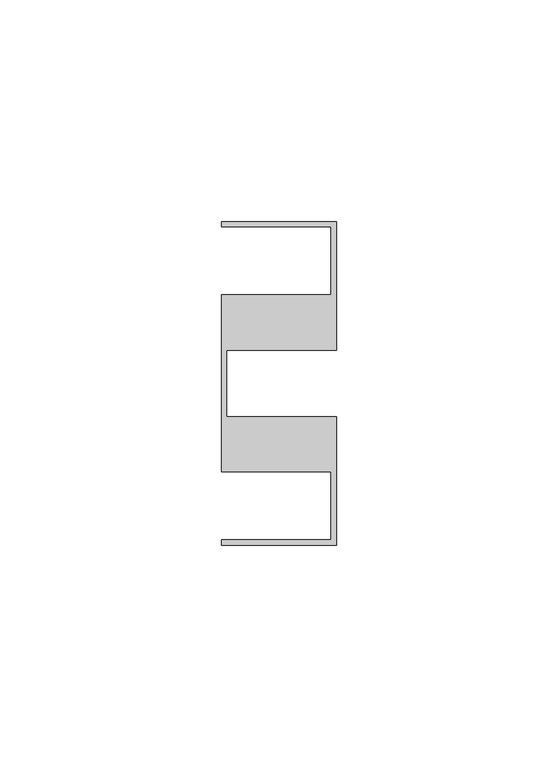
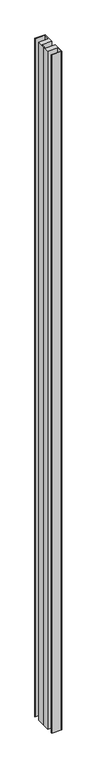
"""IFC4 building model written with IfcOpenShell, lengths in millimetres: member geometry, Прямоугольный импост : 10-AMG-2-Профиль 26Х73 Низ Л."""

from ifc_helpers import new_model, si_unit, frame, origin, place, context, project, spatial, polyline, outline, extrude, source, transform, mapped, element, save


def member_52638710(model_context):
    return source(origin(), model_context, "Body", "SweptSolid", [
        extrude(outline(polyline([(-26.0, 36.5), (0.0, 36.5), (0.0, 7.5116043), (-24.8, 7.5116043), (-24.8, 0.0), (-24.8, -7.5116043), (0.0, -7.5116043), (0.0, -36.5), (-26.0, -36.5), (-26.0, -35.3116043), (-1.2, -35.3116043), (-1.2, -20.0), (-26.0, -20.0), (-26.0, 0.0), (-26.0, 20.0), (-1.2, 20.0), (-1.2, 35.3), (-26.0, 35.3), (-26.0, 36.5)])), frame((0.0, 0.0, -1819.8251447), z_axis=(0.0, 0.0, 1.0), x_axis=(1.0, 0.0, 0.0)), (0.0, 0.0, 1.0), 1819.8251447),
    ])


if __name__ == "__main__":
    model = new_model("IFC4")
    model_context = context("Model", 3, world=origin())
    ifc_project = project(units=[si_unit("LENGTHUNIT", "METRE", prefix="MILLI")], contexts=[model_context])
    site = spatial("IfcSite", under=ifc_project)
    building = spatial("IfcBuilding", under=site)
    placement = place(None, origin())
    member_shape = member_52638710(model_context)
    element("IfcMember", 1, ObjectType="Прямоугольный импост : 10-AMG-2-Профиль 26Х73 Низ Л", at=placement, inside=building, context=model_context, shape_type="MappedRepresentation", body=[
        mapped(member_shape, transform((0.0, 0.0, 0.0), x_axis=(1.0, 0.0, 0.0), y_axis=(0.0, 1.0, 0.0), z_axis=(0.0, 0.0, 1.0))),
    ])
    save(model, "model.ifc")
